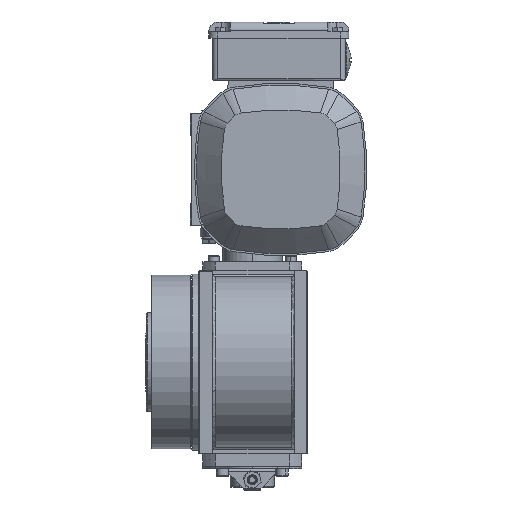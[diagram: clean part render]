
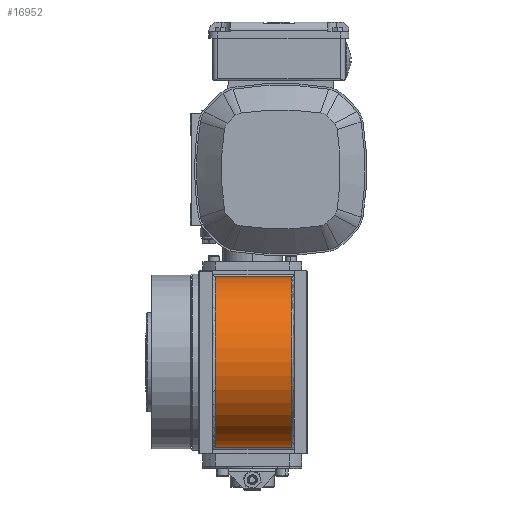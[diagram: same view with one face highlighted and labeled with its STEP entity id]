
A CAD part, left-side view. The second image highlights one B-rep face of the part: STEP entity #16952.
In plain terms, the highlighted cylindrical face has radius 69 mm (diameter 138 mm), a partial arc.
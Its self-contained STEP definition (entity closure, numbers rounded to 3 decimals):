
#1553 = VECTOR ( 'NONE', #4268, 1000. ) ;
#4268 = DIRECTION ( 'NONE',  ( 0., -1., 0. ) ) ;
#5022 = VECTOR ( 'NONE', #45260, 1000. ) ;
#8582 = ORIENTED_EDGE ( 'NONE', *, *, #43065, .T. ) ;
#10918 = DIRECTION ( 'NONE',  ( 0., -1., 0. ) ) ;
#16106 = ORIENTED_EDGE ( 'NONE', *, *, #53160, .T. ) ;
#16952 = ADVANCED_FACE ( 'NONE', ( #42772 ), #47582, .T. ) ;
#18507 = DIRECTION ( 'NONE',  ( 0., -1., 0. ) ) ;
#18633 = CARTESIAN_POINT ( 'NONE',  ( -42.511, 10.762, -28.281 ) ) ;
#19018 = CARTESIAN_POINT ( 'NONE',  ( -42.511, 8.762, 109.5 ) ) ;
#19405 = VERTEX_POINT ( 'NONE', #30381 ) ;
#21714 = VERTEX_POINT ( 'NONE', #62445 ) ;
#23628 = CARTESIAN_POINT ( 'NONE',  ( -38.624, 10.762, 40.609 ) ) ;
#24253 = DIRECTION ( 'NONE',  ( 0., 0., -1. ) ) ;
#25157 = AXIS2_PLACEMENT_3D ( 'NONE', #51375, #47247, #41803 ) ;
#25759 = LINE ( 'NONE', #40154, #5022 ) ;
#26239 = DIRECTION ( 'NONE',  ( 0., 0., 1. ) ) ;
#30381 = CARTESIAN_POINT ( 'NONE',  ( -42.511, -53.238, 109.5 ) ) ;
#32865 = VERTEX_POINT ( 'NONE', #57869 ) ;
#33697 = ORIENTED_EDGE ( 'NONE', *, *, #52487, .T. ) ;
#34840 = AXIS2_PLACEMENT_3D ( 'NONE', #55617, #10918, #26239 ) ;
#40154 = CARTESIAN_POINT ( 'NONE',  ( -42.511, 10.762, 109.5 ) ) ;
#40520 = VERTEX_POINT ( 'NONE', #19018 ) ;
#41803 = DIRECTION ( 'NONE',  ( 0., 0., 1. ) ) ;
#41955 = LINE ( 'NONE', #18633, #1553 ) ;
#42772 = FACE_OUTER_BOUND ( 'NONE', #61933, .T. ) ;
#43065 = EDGE_CURVE ( 'NONE', #19405, #40520, #25759, .T. ) ;
#45260 = DIRECTION ( 'NONE',  ( 0., 1., 0. ) ) ;
#46051 = CIRCLE ( 'NONE', #34840, 69. ) ;
#47247 = DIRECTION ( 'NONE',  ( 0., 1., 0. ) ) ;
#47582 = CYLINDRICAL_SURFACE ( 'NONE', #55673, 69. ) ;
#47828 = ORIENTED_EDGE ( 'NONE', *, *, #50287, .T. ) ;
#49619 = CIRCLE ( 'NONE', #25157, 69. ) ;
#50287 = EDGE_CURVE ( 'NONE', #40520, #21714, #46051, .T. ) ;
#51375 = CARTESIAN_POINT ( 'NONE',  ( -38.624, -53.238, 40.609 ) ) ;
#52487 = EDGE_CURVE ( 'NONE', #21714, #32865, #41955, .T. ) ;
#53160 = EDGE_CURVE ( 'NONE', #32865, #19405, #49619, .T. ) ;
#55617 = CARTESIAN_POINT ( 'NONE',  ( -38.624, 8.762, 40.609 ) ) ;
#55673 = AXIS2_PLACEMENT_3D ( 'NONE', #23628, #18507, #24253 ) ;
#57869 = CARTESIAN_POINT ( 'NONE',  ( -42.511, -53.238, -28.281 ) ) ;
#61933 = EDGE_LOOP ( 'NONE', ( #16106, #8582, #47828, #33697 ) ) ;
#62445 = CARTESIAN_POINT ( 'NONE',  ( -42.511, 8.762, -28.281 ) ) ;
